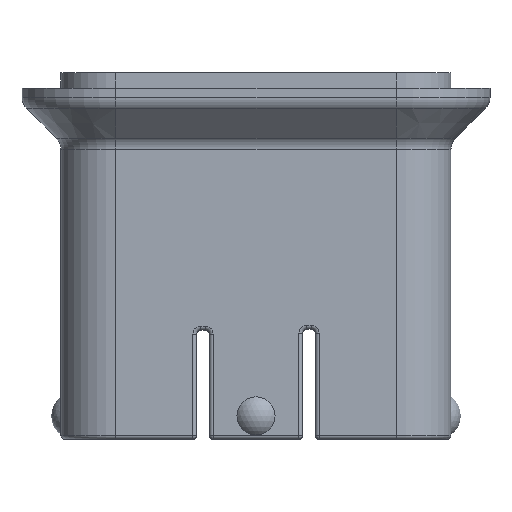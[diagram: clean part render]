
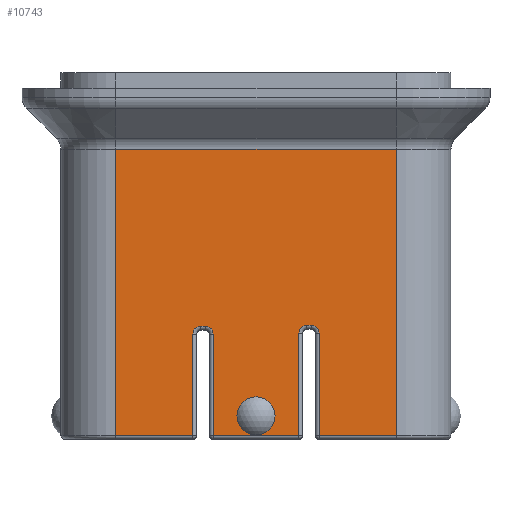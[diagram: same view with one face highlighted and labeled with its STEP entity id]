
A CAD part, left-side view. The second image highlights one B-rep face of the part: STEP entity #10743.
In plain terms, the highlighted planar face has unit normal (-1, 0, 0).
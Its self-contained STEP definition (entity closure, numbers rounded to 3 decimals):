
#714=FACE_BOUND('',#4014,.T.);
#899=PLANE('',#11498);
#1091=LINE('',#14453,#1906);
#1093=LINE('',#14462,#1908);
#1094=LINE('',#14470,#1909);
#1095=LINE('',#14476,#1910);
#1096=LINE('',#14482,#1911);
#1097=LINE('',#14490,#1912);
#1098=LINE('',#14498,#1913);
#1099=LINE('',#14504,#1914);
#1101=LINE('',#14510,#1916);
#1168=LINE('',#14770,#1983);
#1224=LINE('',#14941,#2039);
#1252=LINE('',#15076,#2067);
#1906=VECTOR('',#12288,1.);
#1908=VECTOR('',#12300,1.);
#1909=VECTOR('',#12311,1.);
#1910=VECTOR('',#12320,1.);
#1911=VECTOR('',#12329,1.);
#1912=VECTOR('',#12340,1.);
#1913=VECTOR('',#12351,1.);
#1914=VECTOR('',#12360,1.);
#1916=VECTOR('',#12366,1.);
#1983=VECTOR('',#12681,10.);
#2039=VECTOR('',#12851,1.);
#2067=VECTOR('',#12963,10.);
#3345=FACE_OUTER_BOUND('',#4013,.T.);
#4013=EDGE_LOOP('',(#10063,#10064,#10065,#10066,#10067,#10068,#10069,#10070,
#10071,#10072,#10073,#10074,#10075,#10076,#10077,#10078));
#4014=EDGE_LOOP('',(#10079));
#4144=CIRCLE('',#10990,2.437);
#4200=CIRCLE('',#11087,1.);
#4203=CIRCLE('',#11092,1.);
#4210=CIRCLE('',#11105,1.);
#4213=CIRCLE('',#11110,1.);
#4472=VERTEX_POINT('',#14260);
#4527=VERTEX_POINT('',#14440);
#4531=VERTEX_POINT('',#14449);
#4532=VERTEX_POINT('',#14456);
#4533=VERTEX_POINT('',#14460);
#4534=VERTEX_POINT('',#14464);
#4535=VERTEX_POINT('',#14468);
#4536=VERTEX_POINT('',#14472);
#4537=VERTEX_POINT('',#14478);
#4538=VERTEX_POINT('',#14484);
#4539=VERTEX_POINT('',#14488);
#4540=VERTEX_POINT('',#14492);
#4541=VERTEX_POINT('',#14496);
#4542=VERTEX_POINT('',#14500);
#4544=VERTEX_POINT('',#14508);
#4613=VERTEX_POINT('',#14768);
#4671=VERTEX_POINT('',#14940);
#5560=EDGE_CURVE('',#4472,#4472,#4144,.T.);
#5655=EDGE_CURVE('',#4527,#4531,#1091,.T.);
#5660=EDGE_CURVE('',#4533,#4527,#1093,.T.);
#5662=EDGE_CURVE('',#4534,#4533,#4200,.T.);
#5664=EDGE_CURVE('',#4535,#4534,#1094,.T.);
#5666=EDGE_CURVE('',#4536,#4535,#4203,.T.);
#5667=EDGE_CURVE('',#4532,#4536,#1095,.T.);
#5670=EDGE_CURVE('',#4537,#4532,#1096,.T.);
#5674=EDGE_CURVE('',#4539,#4537,#1097,.T.);
#5676=EDGE_CURVE('',#4540,#4539,#4210,.T.);
#5678=EDGE_CURVE('',#4541,#4540,#1098,.T.);
#5680=EDGE_CURVE('',#4542,#4541,#4213,.T.);
#5681=EDGE_CURVE('',#4538,#4542,#1099,.T.);
#5684=EDGE_CURVE('',#4544,#4538,#1101,.T.);
#5814=EDGE_CURVE('',#4613,#4544,#1168,.T.);
#5898=EDGE_CURVE('',#4531,#4671,#1224,.T.);
#5953=EDGE_CURVE('',#4671,#4613,#1252,.T.);
#10063=ORIENTED_EDGE('',*,*,#5814,.F.);
#10064=ORIENTED_EDGE('',*,*,#5953,.F.);
#10065=ORIENTED_EDGE('',*,*,#5898,.F.);
#10066=ORIENTED_EDGE('',*,*,#5655,.F.);
#10067=ORIENTED_EDGE('',*,*,#5660,.F.);
#10068=ORIENTED_EDGE('',*,*,#5662,.F.);
#10069=ORIENTED_EDGE('',*,*,#5664,.F.);
#10070=ORIENTED_EDGE('',*,*,#5666,.F.);
#10071=ORIENTED_EDGE('',*,*,#5667,.F.);
#10072=ORIENTED_EDGE('',*,*,#5670,.F.);
#10073=ORIENTED_EDGE('',*,*,#5674,.F.);
#10074=ORIENTED_EDGE('',*,*,#5676,.F.);
#10075=ORIENTED_EDGE('',*,*,#5678,.F.);
#10076=ORIENTED_EDGE('',*,*,#5680,.F.);
#10077=ORIENTED_EDGE('',*,*,#5681,.F.);
#10078=ORIENTED_EDGE('',*,*,#5684,.F.);
#10079=ORIENTED_EDGE('',*,*,#5560,.T.);
#10743=ADVANCED_FACE('',(#3345,#714),#899,.T.);
#10990=AXIS2_PLACEMENT_3D('',#14261,#12065,#12066);
#11087=AXIS2_PLACEMENT_3D('',#14466,#12305,#12306);
#11092=AXIS2_PLACEMENT_3D('',#14474,#12316,#12317);
#11105=AXIS2_PLACEMENT_3D('',#14494,#12345,#12346);
#11110=AXIS2_PLACEMENT_3D('',#14502,#12356,#12357);
#11498=AXIS2_PLACEMENT_3D('',#21227,#13796,#13797);
#12065=DIRECTION('center_axis',(1.,0.,0.));
#12066=DIRECTION('ref_axis',(0.,0.,-1.));
#12288=DIRECTION('',(0.,1.,0.));
#12300=DIRECTION('',(0.,0.,-1.));
#12305=DIRECTION('center_axis',(-1.,0.,0.));
#12306=DIRECTION('ref_axis',(0.,0.707,0.707));
#12311=DIRECTION('',(0.,1.,0.));
#12316=DIRECTION('center_axis',(-1.,0.,0.));
#12317=DIRECTION('ref_axis',(0.,-0.707,0.707));
#12320=DIRECTION('',(0.,0.,1.));
#12329=DIRECTION('',(0.,1.,0.));
#12340=DIRECTION('',(0.,0.,-1.));
#12345=DIRECTION('center_axis',(-1.,0.,0.));
#12346=DIRECTION('ref_axis',(0.,0.707,0.707));
#12351=DIRECTION('',(0.,1.,0.));
#12356=DIRECTION('center_axis',(-1.,0.,0.));
#12357=DIRECTION('ref_axis',(0.,-0.707,0.707));
#12360=DIRECTION('',(0.,0.,1.));
#12366=DIRECTION('',(0.,1.,0.));
#12681=DIRECTION('',(0.,0.,-1.));
#12851=DIRECTION('',(0.,0.,1.));
#12963=DIRECTION('',(0.,-1.,0.));
#13796=DIRECTION('center_axis',(-1.,0.,0.));
#13797=DIRECTION('ref_axis',(0.,1.,0.));
#14260=CARTESIAN_POINT('',(-15.,25.,10.437));
#14261=CARTESIAN_POINT('Origin',(-15.,25.,8.));
#14440=CARTESIAN_POINT('',(-15.,33.087,5.5));
#14449=CARTESIAN_POINT('',(-15.,43.,5.5));
#14453=CARTESIAN_POINT('',(-15.,25.,5.5));
#14456=CARTESIAN_POINT('',(-15.,30.5,5.5));
#14460=CARTESIAN_POINT('',(-15.,33.087,18.5));
#14462=CARTESIAN_POINT('',(-15.,33.087,8.5));
#14464=CARTESIAN_POINT('',(-15.,32.087,19.5));
#14466=CARTESIAN_POINT('Origin',(-15.,32.087,18.5));
#14468=CARTESIAN_POINT('',(-15.,31.5,19.5));
#14470=CARTESIAN_POINT('',(-15.,28.397,19.5));
#14472=CARTESIAN_POINT('',(-15.,30.5,18.5));
#14474=CARTESIAN_POINT('Origin',(-15.,31.5,18.5));
#14476=CARTESIAN_POINT('',(-15.,30.5,8.5));
#14478=CARTESIAN_POINT('',(-15.,19.5,5.5));
#14482=CARTESIAN_POINT('',(-15.,25.,5.5));
#14484=CARTESIAN_POINT('',(-15.,16.912,5.5));
#14488=CARTESIAN_POINT('',(-15.,19.5,18.604));
#14490=CARTESIAN_POINT('',(-15.,19.5,8.5));
#14492=CARTESIAN_POINT('',(-15.,18.5,19.604));
#14494=CARTESIAN_POINT('Origin',(-15.,18.5,18.604));
#14496=CARTESIAN_POINT('',(-15.,17.912,19.604));
#14498=CARTESIAN_POINT('',(-15.,21.603,19.604));
#14500=CARTESIAN_POINT('',(-15.,16.912,18.604));
#14502=CARTESIAN_POINT('Origin',(-15.,17.912,18.604));
#14504=CARTESIAN_POINT('',(-15.,16.912,8.5));
#14508=CARTESIAN_POINT('',(-15.,7.,5.5));
#14510=CARTESIAN_POINT('',(-15.,25.,5.5));
#14768=CARTESIAN_POINT('',(-15.,7.,42.172));
#14770=CARTESIAN_POINT('',(-15.,7.,53.));
#14940=CARTESIAN_POINT('',(-15.,43.,42.172));
#14941=CARTESIAN_POINT('',(-15.,43.,0.));
#15076=CARTESIAN_POINT('',(-15.,25.,42.172));
#21227=CARTESIAN_POINT('Origin',(-15.,25.,0.));
